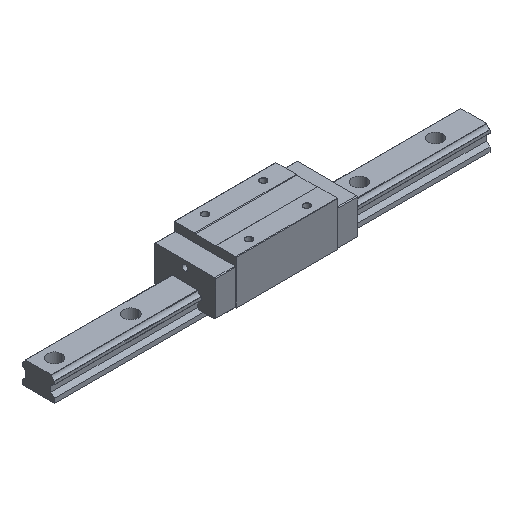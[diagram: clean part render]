
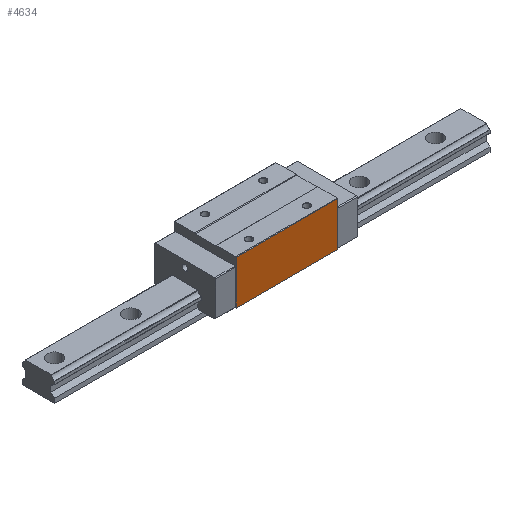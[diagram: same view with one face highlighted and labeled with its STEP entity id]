
A CAD part, isometric view. The second image highlights one B-rep face of the part: STEP entity #4634.
In plain terms, the highlighted planar face has unit normal (0, -1, 0).
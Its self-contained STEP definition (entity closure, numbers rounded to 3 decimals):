
#43 = EDGE_CURVE ( 'NONE', #4290, #3511, #1912, .T. ) ;
#197 = VECTOR ( 'NONE', #1865, 1000. ) ;
#284 = LINE ( 'NONE', #3136, #1412 ) ;
#353 = CARTESIAN_POINT ( 'NONE',  ( 70., -42.5, 70. ) ) ;
#804 = EDGE_CURVE ( 'NONE', #1069, #4290, #2164, .T. ) ;
#1004 = EDGE_CURVE ( 'NONE', #1069, #3141, #1232, .T. ) ;
#1069 = VERTEX_POINT ( 'NONE', #3676 ) ;
#1232 = LINE ( 'NONE', #353, #2845 ) ;
#1412 = VECTOR ( 'NONE', #5226, 1000. ) ;
#1471 = VECTOR ( 'NONE', #5174, 1000. ) ;
#1865 = DIRECTION ( 'NONE',  ( -1., 0., 0. ) ) ;
#1912 = LINE ( 'NONE', #3532, #1471 ) ;
#1920 = CARTESIAN_POINT ( 'NONE',  ( 70., -42.5, 69.5 ) ) ;
#2164 = LINE ( 'NONE', #1920, #197 ) ;
#2256 = ORIENTED_EDGE ( 'NONE', *, *, #3161, .F. ) ;
#2260 = ORIENTED_EDGE ( 'NONE', *, *, #804, .T. ) ;
#2510 = ORIENTED_EDGE ( 'NONE', *, *, #1004, .F. ) ;
#2789 = AXIS2_PLACEMENT_3D ( 'NONE', #4847, #3949, #4894 ) ;
#2845 = VECTOR ( 'NONE', #3275, 1000. ) ;
#3136 = CARTESIAN_POINT ( 'NONE',  ( 70., -42.5, 8.9 ) ) ;
#3141 = VERTEX_POINT ( 'NONE', #4280 ) ;
#3161 = EDGE_CURVE ( 'NONE', #3141, #3511, #284, .T. ) ;
#3204 = FACE_OUTER_BOUND ( 'NONE', #3930, .T. ) ;
#3254 = PLANE ( 'NONE',  #2789 ) ;
#3275 = DIRECTION ( 'NONE',  ( 0., 0., -1. ) ) ;
#3511 = VERTEX_POINT ( 'NONE', #4748 ) ;
#3532 = CARTESIAN_POINT ( 'NONE',  ( -70., -42.5, 70. ) ) ;
#3676 = CARTESIAN_POINT ( 'NONE',  ( 70., -42.5, 69.5 ) ) ;
#3930 = EDGE_LOOP ( 'NONE', ( #2510, #2260, #5122, #2256 ) ) ;
#3949 = DIRECTION ( 'NONE',  ( 0., 1., 0. ) ) ;
#4223 = CARTESIAN_POINT ( 'NONE',  ( -70., -42.5, 69.5 ) ) ;
#4280 = CARTESIAN_POINT ( 'NONE',  ( 70., -42.5, 8.9 ) ) ;
#4290 = VERTEX_POINT ( 'NONE', #4223 ) ;
#4634 = ADVANCED_FACE ( 'NONE', ( #3204 ), #3254, .F. ) ;
#4748 = CARTESIAN_POINT ( 'NONE',  ( -70., -42.5, 8.9 ) ) ;
#4847 = CARTESIAN_POINT ( 'NONE',  ( 70., -42.5, 70. ) ) ;
#4894 = DIRECTION ( 'NONE',  ( 1., 0., 0. ) ) ;
#5122 = ORIENTED_EDGE ( 'NONE', *, *, #43, .T. ) ;
#5174 = DIRECTION ( 'NONE',  ( 0., 0., -1. ) ) ;
#5226 = DIRECTION ( 'NONE',  ( -1., 0., 0. ) ) ;
